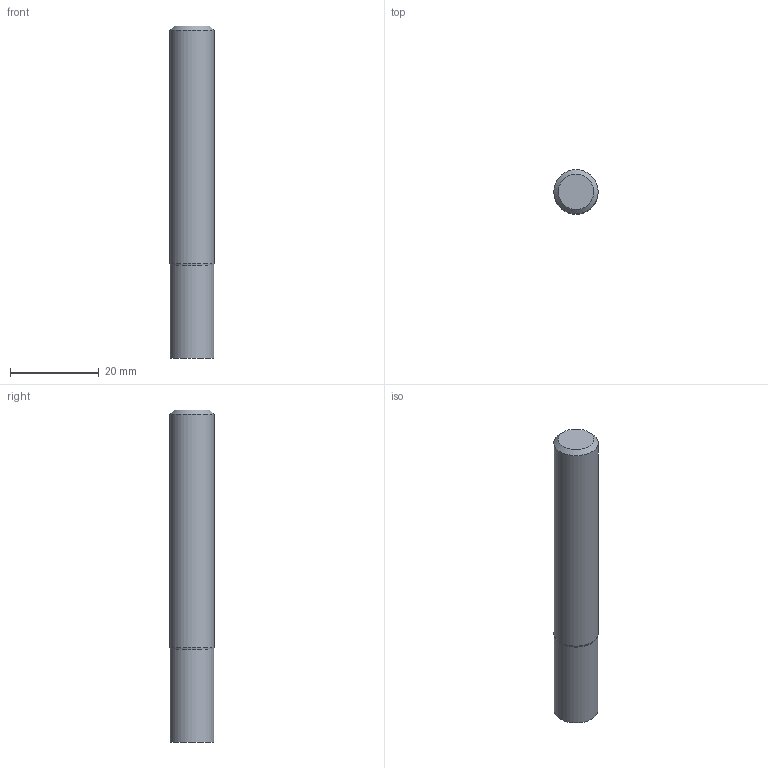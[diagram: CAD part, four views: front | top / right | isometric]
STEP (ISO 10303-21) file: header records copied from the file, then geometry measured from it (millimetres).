
FILE_DESCRIPTION((''),'2;1');
FILE_NAME('C:\Users\nsx150\AppData\Local\Temp\Mastercam 2021\98T1Q6BTT1\TEMP.step','2021-10-21T14:50:02',(''),(''),'STEP Write','Mastercam 2021 ... CNC Software, Inc.','');
FILE_SCHEMA(('AUTOMOTIVE_DESIGN'));
Length unit declared in the file: millimetre
Products named in the file (1): None
Bounding box: 10 x 10 x 75 mm (x, y, z)
Volume: 5842.8 mm3; surface area: 2639.4 mm2
Topology: 2 solids, 2 shells, 8 faces, 10 edges, 6 vertices
Faces by surface type: plane 4, cylinder 2, cone 2
Full cylindrical faces by diameter (mm): 9.9 x1, 10 x1
Entity records: 190 total; most frequent: DIRECTION 32, CARTESIAN_POINT 22, AXIS2_PLACEMENT_3D 16, ORIENTED_EDGE 12, EDGE_LOOP 12, STYLED_ITEM 11, ADVANCED_FACE 8, VERTEX_POINT 6
